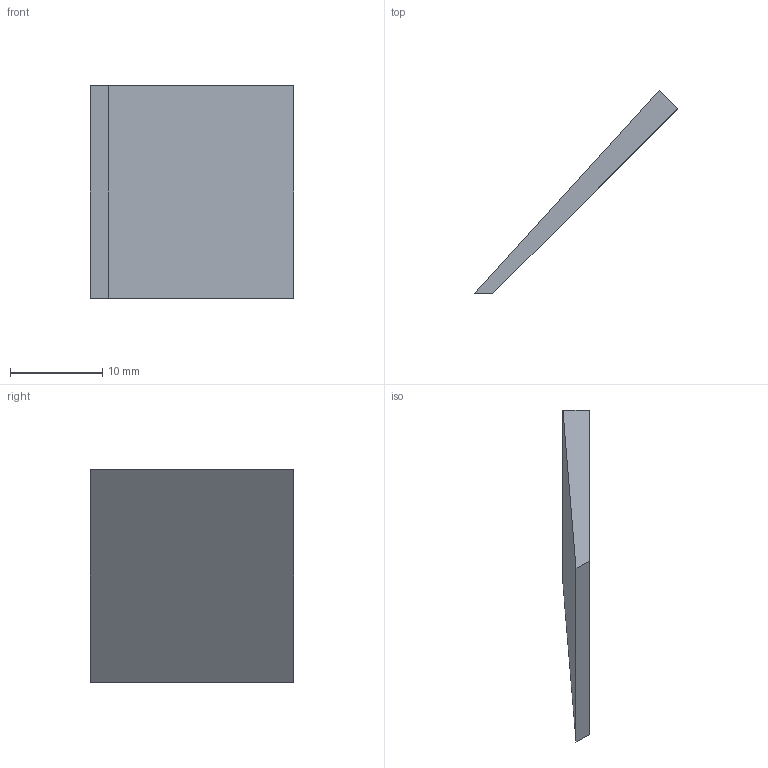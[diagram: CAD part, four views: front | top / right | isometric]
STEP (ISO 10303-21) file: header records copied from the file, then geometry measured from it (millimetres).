
FILE_DESCRIPTION(('FreeCAD Model'),'2;1');
FILE_NAME('Open CASCADE Shape Model','2026-10-12T22:45:25',('FreeCAD'),( 'FreeCAD'),'Open CASCADE STEP processor 7.8','FreeCAD','Unknown');
FILE_SCHEMA(('AUTOMOTIVE_DESIGN { 1 0 10303 214 1 1 1 1 }'));
Length unit declared in the file: millimetre
Products named in the file (1): Open CASCADE STEP translator 7.8 11
Bounding box: 22 x 22 x 23 mm (x, y, z)
Volume: 1426 mm3; surface area: 1569.4 mm2
Topology: 1 solids, 1 shells, 6 faces, 12 edges, 8 vertices
Faces by surface type: plane 6
Entity records: 166 total; most frequent: CARTESIAN_POINT 27, DIRECTION 26, ORIENTED_EDGE 24, EDGE_CURVE 12, LINE 12, VECTOR 12, VERTEX_POINT 8, AXIS2_PLACEMENT_3D 7
